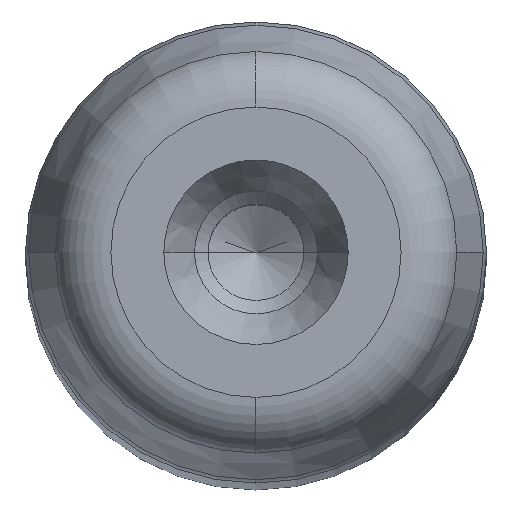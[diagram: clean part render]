
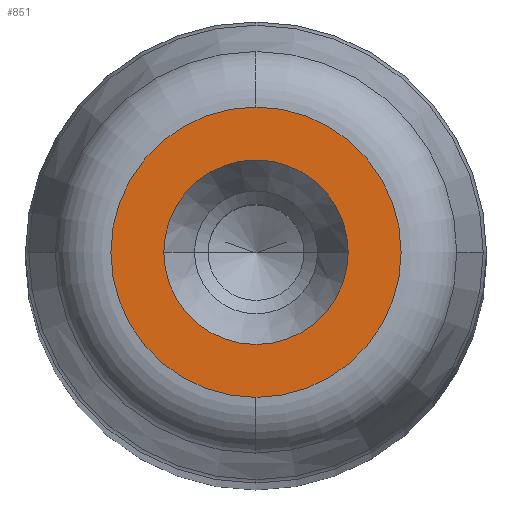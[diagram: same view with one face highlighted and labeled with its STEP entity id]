
A CAD part, top view. The second image highlights one B-rep face of the part: STEP entity #851.
In plain terms, the highlighted planar face has unit normal (0, 0, 1) as drawn and (0, 1, 0) by its records, which use the part's own axes.
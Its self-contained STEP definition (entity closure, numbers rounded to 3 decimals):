
#281=CARTESIAN_POINT('',(4.8,220.0,0.0));
#282=VERTEX_POINT('',#281);
#289=CARTESIAN_POINT('',(-4.8,220.0,0.));
#290=VERTEX_POINT('',#289);
#291=CARTESIAN_POINT('',(0.0,220.0,0.0));
#292=DIRECTION('',(0.0,1.0,0.0));
#293=DIRECTION('',(1.0,0.0,0.0));
#294=AXIS2_PLACEMENT_3D('',#291,#292,#293);
#295=CIRCLE('',#294,4.8);
#296=EDGE_CURVE('',#282,#290,#295,.T.);
#313=CARTESIAN_POINT('',(0.0,220.0,7.554));
#314=VERTEX_POINT('',#313);
#324=CARTESIAN_POINT('',(0.,220.0,-7.554));
#325=VERTEX_POINT('',#324);
#326=CARTESIAN_POINT('',(0.0,220.0,0.0));
#327=DIRECTION('',(0.0,1.0,0.0));
#328=DIRECTION('',(1.0,0.0,0.0));
#329=AXIS2_PLACEMENT_3D('',#326,#327,#328);
#330=CIRCLE('',#329,7.554);
#331=EDGE_CURVE('',#325,#314,#330,.T.);
#812=CARTESIAN_POINT('',(7.554,220.0,0.0));
#813=VERTEX_POINT('',#812);
#814=CARTESIAN_POINT('',(0.0,220.0,0.0));
#815=DIRECTION('',(0.0,1.0,0.0));
#816=DIRECTION('',(1.0,0.0,0.0));
#817=AXIS2_PLACEMENT_3D('',#814,#815,#816);
#818=CIRCLE('',#817,7.554);
#819=EDGE_CURVE('',#813,#325,#818,.T.);
#821=CARTESIAN_POINT('',(0.0,220.0,0.0));
#822=DIRECTION('',(0.0,1.0,0.0));
#823=DIRECTION('',(1.0,0.0,0.0));
#824=AXIS2_PLACEMENT_3D('',#821,#822,#823);
#825=CIRCLE('',#824,7.554);
#826=EDGE_CURVE('',#314,#813,#825,.T.);
#831=CARTESIAN_POINT('',(-8.31,220.0,-8.31));
#832=DIRECTION('',(0.0,1.0,0.0));
#833=DIRECTION('',(0.0,0.0,1.0));
#834=AXIS2_PLACEMENT_3D('',#831,#832,#833);
#835=PLANE('',#834);
#836=ORIENTED_EDGE('',*,*,#819,.T.);
#837=ORIENTED_EDGE('',*,*,#331,.T.);
#838=ORIENTED_EDGE('',*,*,#826,.T.);
#839=EDGE_LOOP('',(#836,#837,#838));
#840=FACE_OUTER_BOUND('',#839,.T.);
#841=ORIENTED_EDGE('',*,*,#296,.F.);
#842=CARTESIAN_POINT('',(0.0,220.0,0.0));
#843=DIRECTION('',(0.0,1.0,0.0));
#844=DIRECTION('',(1.0,0.0,0.0));
#845=AXIS2_PLACEMENT_3D('',#842,#843,#844);
#846=CIRCLE('',#845,4.8);
#847=EDGE_CURVE('',#290,#282,#846,.T.);
#848=ORIENTED_EDGE('',*,*,#847,.F.);
#849=EDGE_LOOP('',(#841,#848));
#850=FACE_BOUND('',#849,.T.);
#851=ADVANCED_FACE('',(#840,#850),#835,.T.);
